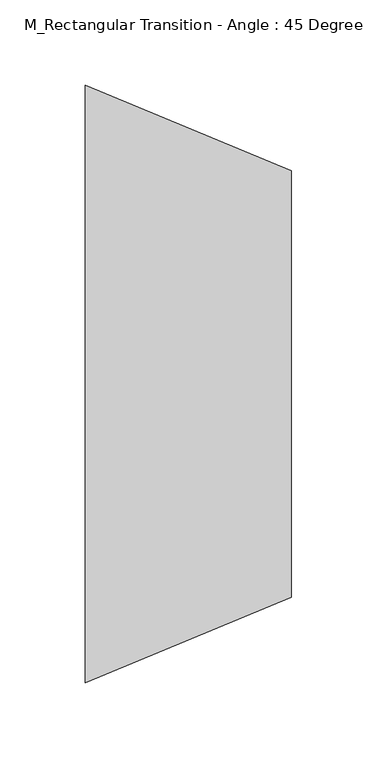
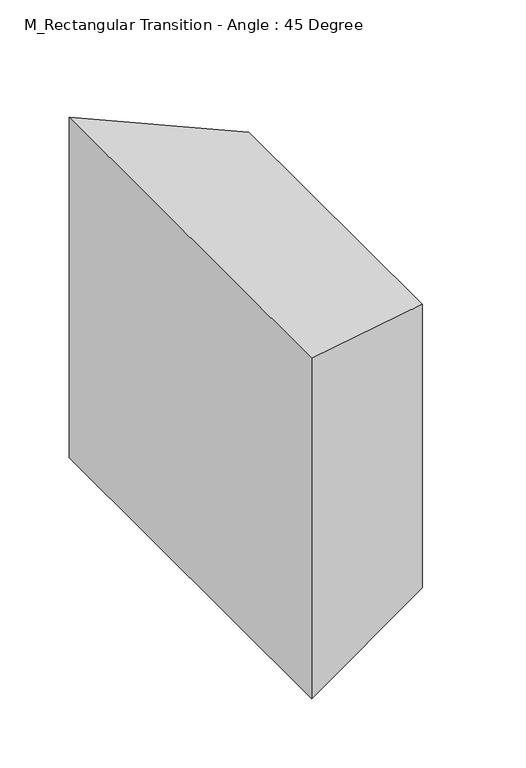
"""IFC4 building model written with IfcOpenShell, lengths in millimetres: duct fitting geometry, M_Rectangular Transition - Angle : 45 Degree."""

from ifc_helpers import new_model, si_unit, origin, place, context, project, spatial, faceted_brep, source, transform, mapped, element, save


def m_rectangular_transition_angle_45_degree_68338550(model_context):
    return source(origin(), model_context, "Body", "Brep", [
        faceted_brep([(120.7106781, -125.0, 125.0), (120.7106781, -125.0, -125.0), (120.7106781, 125.0, -125.0), (120.7106781, 125.0, 125.0), (0.0, -175.0, 150.0), (0.0, 175.0, 150.0), (0.0, 175.0, -150.0), (0.0, -175.0, -150.0)], [[[0, 1, 2, 3]], [[4, 5, 6, 7]], [[4, 7, 1, 0]], [[7, 6, 2, 1]], [[6, 5, 3, 2]], [[5, 4, 0, 3]]]),
        faceted_brep([(120.7106781, -125.0, 125.0), (120.7106781, -125.0, -125.0), (120.7106781, 125.0, -125.0), (120.7106781, 125.0, 125.0), (0.0, -175.0, 150.0), (0.0, 175.0, 150.0), (0.0, 175.0, -150.0), (0.0, -175.0, -150.0)], [[[0, 1, 2, 3]], [[4, 5, 6, 7]], [[4, 7, 1, 0]], [[7, 6, 2, 1]], [[6, 5, 3, 2]], [[5, 4, 0, 3]]]),
        faceted_brep([(120.7106781, -125.0, 125.0), (120.7106781, -125.0, -125.0), (120.7106781, 125.0, -125.0), (120.7106781, 125.0, 125.0), (0.0, -175.0, 150.0), (0.0, 175.0, 150.0), (0.0, 175.0, -150.0), (0.0, -175.0, -150.0)], [[[0, 1, 2, 3]], [[4, 5, 6, 7]], [[4, 7, 1, 0]], [[7, 6, 2, 1]], [[6, 5, 3, 2]], [[5, 4, 0, 3]]]),
    ])


if __name__ == "__main__":
    model = new_model("IFC4")
    model_context = context("Model", 3, world=origin())
    ifc_project = project(units=[si_unit("LENGTHUNIT", "METRE", prefix="MILLI")], contexts=[model_context])
    site = spatial("IfcSite", under=ifc_project)
    building = spatial("IfcBuilding", under=site)
    placement = place(None, origin())
    m_rectangular_transition_angle_45_degree_shape = m_rectangular_transition_angle_45_degree_68338550(model_context)
    element("IfcDuctFitting", 1, ObjectType="M_Rectangular Transition - Angle : 45 Degree", at=placement, inside=building, context=model_context, shape_type="MappedRepresentation", body=[
        mapped(m_rectangular_transition_angle_45_degree_shape, transform((0.0, 0.0, 0.0), x_axis=(1.0, 0.0, 0.0), y_axis=(0.0, 1.0, 0.0), z_axis=(0.0, 0.0, 1.0))),
    ])
    save(model, "model.ifc")
